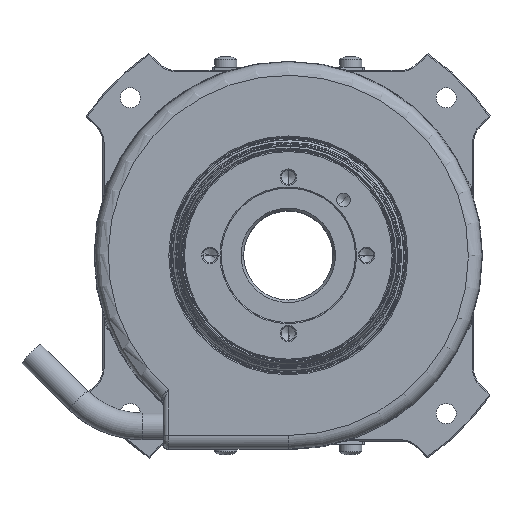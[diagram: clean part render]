
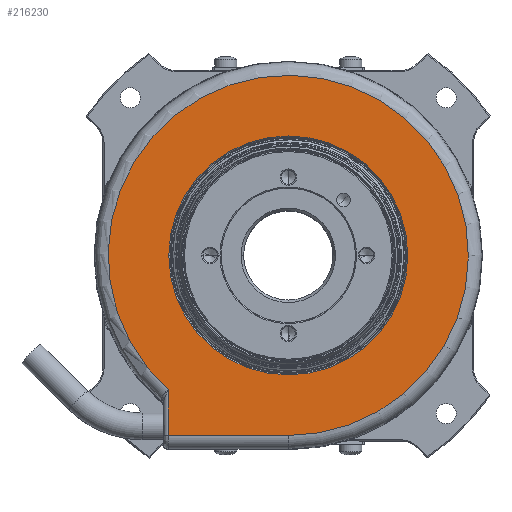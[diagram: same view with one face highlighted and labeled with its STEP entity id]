
A CAD part, top view. The second image highlights one B-rep face of the part: STEP entity #216230.
In plain terms, the highlighted planar face has unit normal (0, 0, 1) as drawn and (0, 0, -1) by its records, which use the part's own axes.
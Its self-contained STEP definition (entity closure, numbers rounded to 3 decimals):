
#28300=CARTESIAN_POINT('',(0.,40.33,
-35.));
#28310=DIRECTION('',(-1.,0.,0.));
#28320=VECTOR('',#28310,1.);
#28330=LINE('',#28300,#28320);
#28340=CARTESIAN_POINT('',(0.,40.33,
-35.));
#28350=VERTEX_POINT('',#28340);
#28360=CARTESIAN_POINT('',(-26.889,40.33,
-35.));
#28370=VERTEX_POINT('',#28360);
#28380=EDGE_CURVE('',#28350,#28370,#28330,.T.);
#151700=CARTESIAN_POINT('',(-26.889,30.059,
-35.));
#151710=VERTEX_POINT('',#151700);
#151740=CARTESIAN_POINT('',(-26.889,-15.524,
-35.));
#151750=DIRECTION('',(0.,1.,0.));
#151760=VECTOR('',#151750,1.);
#151770=LINE('',#151740,#151760);
#151780=EDGE_CURVE('',#151710,#28370,#151770,.T.);
#165100=CARTESIAN_POINT('',(0.,0.,
-35.));
#165110=DIRECTION('',(0.,0.,1.));
#165120=DIRECTION('',(0.5,-0.866,
0.));
#165130=AXIS2_PLACEMENT_3D('',#165100,#165110,#165120);
#165140=CIRCLE('',#165130,40.33);
#165150=EDGE_CURVE('',#151710,#28350,#165140,.T.);
#215720=CARTESIAN_POINT('',(0.,0.,
-35.));
#215730=DIRECTION('',(0.,0.,1.));
#215740=DIRECTION('',(0.5,-0.866,
0.));
#215750=AXIS2_PLACEMENT_3D('',#215720,#215730,#215740);
#215760=CIRCLE('',#215750,26.75);
#215770=CARTESIAN_POINT('',(-26.75,0.,-35.));
#215780=VERTEX_POINT('',#215770);
#215790=CARTESIAN_POINT('',(13.375,-23.166,
-35.));
#215800=VERTEX_POINT('',#215790);
#215810=EDGE_CURVE('',#215780,#215800,#215760,.T.);
#215980=CARTESIAN_POINT('',(-13.375,23.166,
-35.));
#215990=VERTEX_POINT('',#215980);
#216020=EDGE_CURVE('',#215990,#215780,#215760,.T.);
#216070=CARTESIAN_POINT('',(0.,0.,
-35.));
#216080=DIRECTION('',(0.,0.,1.));
#216090=DIRECTION('',(1.,0.,0.));
#216100=AXIS2_PLACEMENT_3D('',#216070,#216080,#216090);
#216110=PLANE('',#216100);
#216120=EDGE_CURVE('',#215800,#215990,#215760,.T.);
#216130=ORIENTED_EDGE('',*,*,#216120,.T.);
#216140=ORIENTED_EDGE('',*,*,#215810,.T.);
#216150=ORIENTED_EDGE('',*,*,#216020,.T.);
#216160=EDGE_LOOP('',(#216150,#216140,#216130));
#216170=FACE_BOUND('',#216160,.T.);
#216180=ORIENTED_EDGE('',*,*,#165150,.F.);
#216190=ORIENTED_EDGE('',*,*,#28380,.F.);
#216200=ORIENTED_EDGE('',*,*,#151780,.T.);
#216210=EDGE_LOOP('',(#216200,#216190,#216180));
#216220=FACE_OUTER_BOUND('',#216210,.T.);
#216230=ADVANCED_FACE('',(#216170,#216220),#216110,.F.);
